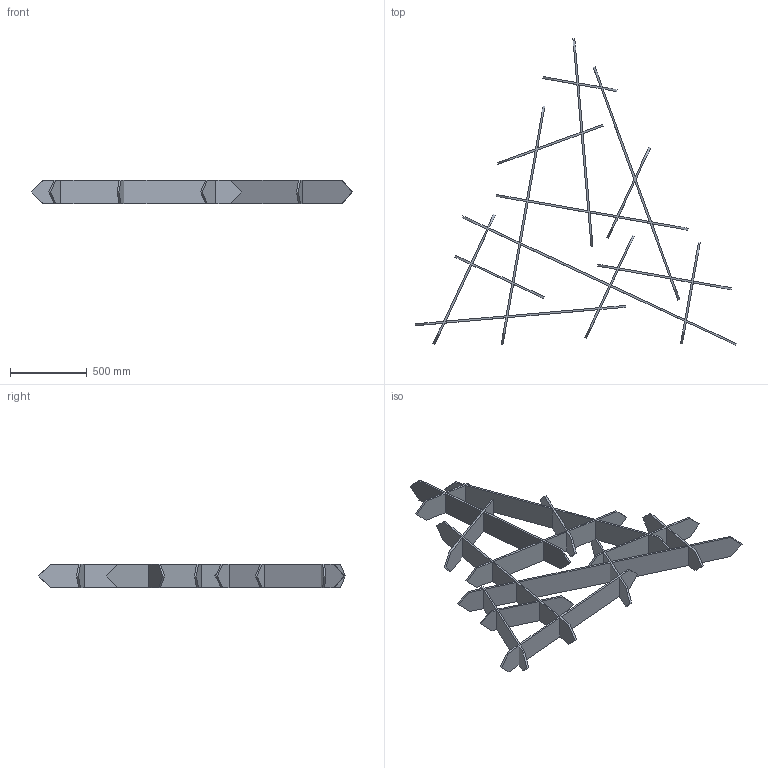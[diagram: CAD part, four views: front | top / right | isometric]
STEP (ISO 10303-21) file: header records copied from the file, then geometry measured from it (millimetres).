
FILE_DESCRIPTION(/* description */ (''),/* implementation_level */ '2;1');
FILE_NAME(/* name */ 'Thatch Triangle Arrow Simplified',/* time_stamp */ '2026-04-13T12:20:12-05:00',/* author */ (''),/* organization */ (''),/* preprocessor_version */ 'ST-DEVELOPER v19.2',/* originating_system */ 'Rhino 8.29',/* authorisation */ '');
FILE_SCHEMA (('CONFIG_CONTROL_DESIGN'));
Length unit declared in the file: inch
Products named in the file (1): Document
Bounding box: 2092.46 x 1995.87 x 152.4 mm (x, y, z)
Surface area: 4441640 mm2 (no closed solid volume)
Topology: 0 solids, 55 shells, 169 faces, 798 edges, 658 vertices
Faces by surface type: plane 169
Entity records: 6498 total; most frequent: CARTESIAN_POINT 2222, ORIENTED_EDGE 1002, B_SPLINE_CURVE_WITH_KNOTS 744, EDGE_CURVE 690, VERTEX_POINT 550, DIRECTION 187, EDGE_LOOP 185, ADVANCED_FACE 169
